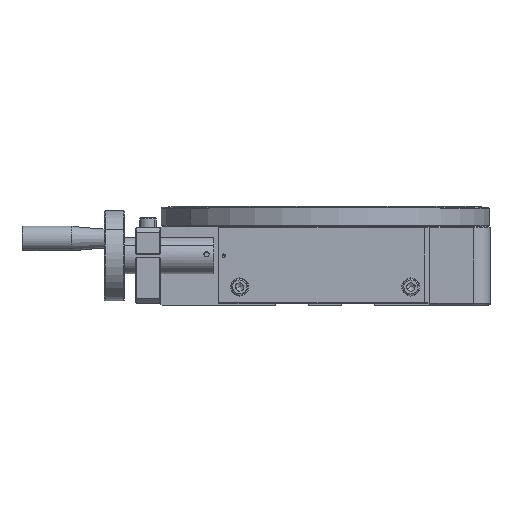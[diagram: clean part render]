
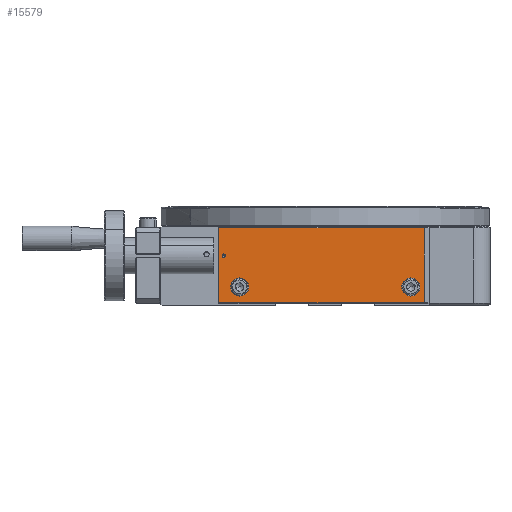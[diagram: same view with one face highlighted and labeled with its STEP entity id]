
A CAD part, top view. The second image highlights one B-rep face of the part: STEP entity #15579.
In plain terms, the highlighted planar face has unit normal (0, 0, 1).
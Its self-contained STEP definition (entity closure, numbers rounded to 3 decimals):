
#164 = CARTESIAN_POINT ( 'NONE',  ( 240.808, -40.342, 454.221 ) ) ;
#273 = CARTESIAN_POINT ( 'NONE',  ( 132.808, -21.342, 454.221 ) ) ;
#352 = VERTEX_POINT ( 'NONE', #8287 ) ;
#558 = VERTEX_POINT ( 'NONE', #1057 ) ;
#804 = ORIENTED_EDGE ( 'NONE', *, *, #8601, .T. ) ;
#829 = ORIENTED_EDGE ( 'NONE', *, *, #891, .T. ) ;
#891 = EDGE_CURVE ( 'NONE', #1930, #1656, #3271, .T. ) ;
#944 = EDGE_LOOP ( 'NONE', ( #16230, #4314 ) ) ;
#997 = DIRECTION ( 'NONE',  ( 0., 0., -1. ) ) ;
#1057 = CARTESIAN_POINT ( 'NONE',  ( 254.308, -4.342, 454.221 ) ) ;
#1163 = ORIENTED_EDGE ( 'NONE', *, *, #12424, .T. ) ;
#1223 = CARTESIAN_POINT ( 'NONE',  ( 147.808, -40.342, 454.221 ) ) ;
#1264 = EDGE_CURVE ( 'NONE', #4851, #15121, #2275, .T. ) ;
#1553 = CARTESIAN_POINT ( 'NONE',  ( 254.308, -3.842, 454.221 ) ) ;
#1567 = DIRECTION ( 'NONE',  ( 1., 0., 0. ) ) ;
#1622 = DIRECTION ( 'NONE',  ( 0., 0., 1. ) ) ;
#1645 = FACE_BOUND ( 'NONE', #5303, .T. ) ;
#1656 = VERTEX_POINT ( 'NONE', #1878 ) ;
#1776 = CARTESIAN_POINT ( 'NONE',  ( 133.833, -21.342, 454.221 ) ) ;
#1878 = CARTESIAN_POINT ( 'NONE',  ( 254.308, -49.842, 454.221 ) ) ;
#1930 = VERTEX_POINT ( 'NONE', #14607 ) ;
#2271 = AXIS2_PLACEMENT_3D ( 'NONE', #273, #9065, #1567 ) ;
#2275 = CIRCLE ( 'NONE', #2271, 1.025 ) ;
#2373 = DIRECTION ( 'NONE',  ( 1., 0., 0. ) ) ;
#2523 = EDGE_CURVE ( 'NONE', #15121, #4851, #14972, .T. ) ;
#3149 = CARTESIAN_POINT ( 'NONE',  ( 129.808, -4.342, 454.221 ) ) ;
#3227 = CARTESIAN_POINT ( 'NONE',  ( 254.308, -49.842, 454.221 ) ) ;
#3271 = LINE ( 'NONE', #3227, #12471 ) ;
#3276 = ORIENTED_EDGE ( 'NONE', *, *, #8109, .F. ) ;
#3642 = CARTESIAN_POINT ( 'NONE',  ( 132.808, -21.342, 454.221 ) ) ;
#3819 = CARTESIAN_POINT ( 'NONE',  ( 246.308, -40.342, 454.221 ) ) ;
#3901 = ORIENTED_EDGE ( 'NONE', *, *, #2523, .F. ) ;
#4077 = AXIS2_PLACEMENT_3D ( 'NONE', #3642, #11147, #2373 ) ;
#4196 = FACE_BOUND ( 'NONE', #944, .T. ) ;
#4314 = ORIENTED_EDGE ( 'NONE', *, *, #7909, .F. ) ;
#4603 = CIRCLE ( 'NONE', #5056, 5.5 ) ;
#4780 = DIRECTION ( 'NONE',  ( 0., -1., 0. ) ) ;
#4851 = VERTEX_POINT ( 'NONE', #1776 ) ;
#5056 = AXIS2_PLACEMENT_3D ( 'NONE', #5134, #13901, #6365 ) ;
#5085 = DIRECTION ( 'NONE',  ( 1., 0., 0. ) ) ;
#5134 = CARTESIAN_POINT ( 'NONE',  ( 142.308, -40.342, 454.221 ) ) ;
#5303 = EDGE_LOOP ( 'NONE', ( #3276, #14242 ) ) ;
#5789 = LINE ( 'NONE', #12651, #14999 ) ;
#6304 = AXIS2_PLACEMENT_3D ( 'NONE', #9120, #1622, #10392 ) ;
#6365 = DIRECTION ( 'NONE',  ( 1., 0., 0. ) ) ;
#6405 = VERTEX_POINT ( 'NONE', #164 ) ;
#6441 = VECTOR ( 'NONE', #14035, 1000. ) ;
#6495 = EDGE_CURVE ( 'NONE', #352, #6405, #15759, .T. ) ;
#6657 = CARTESIAN_POINT ( 'NONE',  ( 136.808, -40.342, 454.221 ) ) ;
#6757 = CARTESIAN_POINT ( 'NONE',  ( 142.308, -40.342, 454.221 ) ) ;
#7221 = PLANE ( 'NONE',  #11360 ) ;
#7245 = LINE ( 'NONE', #1553, #6441 ) ;
#7246 = ORIENTED_EDGE ( 'NONE', *, *, #1264, .F. ) ;
#7803 = AXIS2_PLACEMENT_3D ( 'NONE', #6757, #15550, #8040 ) ;
#7909 = EDGE_CURVE ( 'NONE', #6405, #352, #11198, .T. ) ;
#8040 = DIRECTION ( 'NONE',  ( 1., 0., 0. ) ) ;
#8058 = CIRCLE ( 'NONE', #7803, 5.5 ) ;
#8109 = EDGE_CURVE ( 'NONE', #10588, #12714, #8058, .T. ) ;
#8287 = CARTESIAN_POINT ( 'NONE',  ( 251.808, -40.342, 454.221 ) ) ;
#8601 = EDGE_CURVE ( 'NONE', #1656, #558, #7245, .T. ) ;
#9065 = DIRECTION ( 'NONE',  ( 0., 0., 1. ) ) ;
#9120 = CARTESIAN_POINT ( 'NONE',  ( 246.308, -40.342, 454.221 ) ) ;
#9378 = CARTESIAN_POINT ( 'NONE',  ( 131.783, -21.342, 454.221 ) ) ;
#9672 = EDGE_LOOP ( 'NONE', ( #7246, #3901 ) ) ;
#9749 = DIRECTION ( 'NONE',  ( -1., 0., 0. ) ) ;
#9817 = AXIS2_PLACEMENT_3D ( 'NONE', #3819, #12579, #5085 ) ;
#10392 = DIRECTION ( 'NONE',  ( 1., 0., 0. ) ) ;
#10471 = FACE_OUTER_BOUND ( 'NONE', #12353, .T. ) ;
#10588 = VERTEX_POINT ( 'NONE', #1223 ) ;
#11024 = CARTESIAN_POINT ( 'NONE',  ( 129.808, -49.842, 454.221 ) ) ;
#11147 = DIRECTION ( 'NONE',  ( 0., 0., 1. ) ) ;
#11174 = ORIENTED_EDGE ( 'NONE', *, *, #13845, .T. ) ;
#11198 = CIRCLE ( 'NONE', #9817, 5.5 ) ;
#11360 = AXIS2_PLACEMENT_3D ( 'NONE', #16017, #997, #9749 ) ;
#11715 = VECTOR ( 'NONE', #4780, 1000. ) ;
#12353 = EDGE_LOOP ( 'NONE', ( #11174, #1163, #829, #804 ) ) ;
#12424 = EDGE_CURVE ( 'NONE', #15160, #1930, #15045, .T. ) ;
#12471 = VECTOR ( 'NONE', #15769, 1000. ) ;
#12579 = DIRECTION ( 'NONE',  ( 0., 0., 1. ) ) ;
#12651 = CARTESIAN_POINT ( 'NONE',  ( 129.308, -4.342, 454.221 ) ) ;
#12714 = VERTEX_POINT ( 'NONE', #6657 ) ;
#13807 = FACE_BOUND ( 'NONE', #9672, .T. ) ;
#13845 = EDGE_CURVE ( 'NONE', #558, #15160, #5789, .T. ) ;
#13901 = DIRECTION ( 'NONE',  ( 0., 0., 1. ) ) ;
#13920 = DIRECTION ( 'NONE',  ( -1., 0., 0. ) ) ;
#14035 = DIRECTION ( 'NONE',  ( 0., 1., 0. ) ) ;
#14242 = ORIENTED_EDGE ( 'NONE', *, *, #14383, .F. ) ;
#14383 = EDGE_CURVE ( 'NONE', #12714, #10588, #4603, .T. ) ;
#14607 = CARTESIAN_POINT ( 'NONE',  ( 129.808, -49.842, 454.221 ) ) ;
#14972 = CIRCLE ( 'NONE', #4077, 1.025 ) ;
#14999 = VECTOR ( 'NONE', #13920, 1000. ) ;
#15045 = LINE ( 'NONE', #11024, #11715 ) ;
#15121 = VERTEX_POINT ( 'NONE', #9378 ) ;
#15160 = VERTEX_POINT ( 'NONE', #3149 ) ;
#15550 = DIRECTION ( 'NONE',  ( 0., 0., 1. ) ) ;
#15579 = ADVANCED_FACE ( 'NONE', ( #13807, #1645, #4196, #10471 ), #7221, .F. ) ;
#15759 = CIRCLE ( 'NONE', #6304, 5.5 ) ;
#15769 = DIRECTION ( 'NONE',  ( 1., 0., 0. ) ) ;
#16017 = CARTESIAN_POINT ( 'NONE',  ( 257.308, -50.342, 454.221 ) ) ;
#16230 = ORIENTED_EDGE ( 'NONE', *, *, #6495, .F. ) ;
